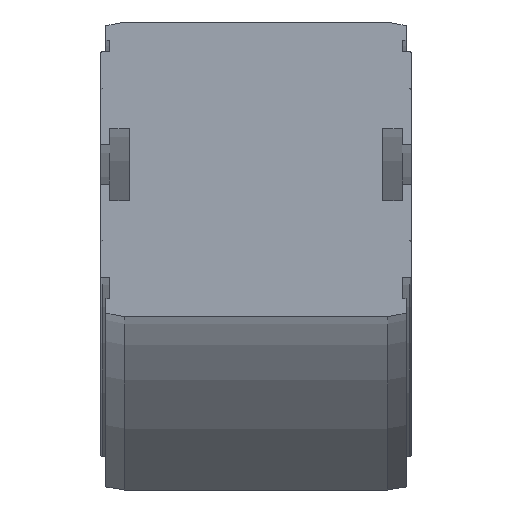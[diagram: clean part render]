
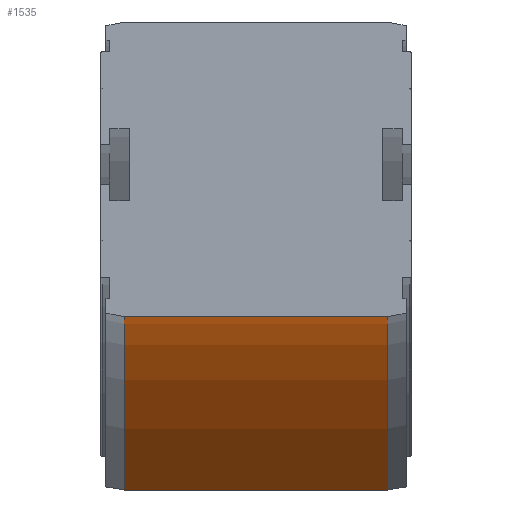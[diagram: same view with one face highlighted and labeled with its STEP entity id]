
A CAD part, left-side view. The second image highlights one B-rep face of the part: STEP entity #1535.
In plain terms, the highlighted cylindrical face has radius 358 mm (diameter 716 mm), a partial arc.
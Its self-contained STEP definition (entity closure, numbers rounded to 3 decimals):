
#1494=CARTESIAN_POINT('',(0.,-18.25,-439.5));
#1495=DIRECTION('',(0.0,1.0,0.0));
#1496=DIRECTION('',(0.0,0.0,1.0));
#1497=AXIS2_PLACEMENT_3D('',#1494,#1495,#1496);
#1498=CYLINDRICAL_SURFACE('',#1497,358.);
#1499=CARTESIAN_POINT('',(179.,36.5,-129.463));
#1500=VERTEX_POINT('',#1499);
#1501=CARTESIAN_POINT('',(179.,-36.5,-129.463));
#1502=VERTEX_POINT('',#1501);
#1503=CARTESIAN_POINT('',(179.,36.5,-129.463));
#1504=DIRECTION('',(0.0,-1.0,0.0));
#1505=VECTOR('',#1504,73.0);
#1506=LINE('',#1503,#1505);
#1507=EDGE_CURVE('',#1500,#1502,#1506,.T.);
#1508=ORIENTED_EDGE('',*,*,#1507,.T.);
#1509=CARTESIAN_POINT('',(0.0,-36.5,-81.5));
#1510=VERTEX_POINT('',#1509);
#1511=CARTESIAN_POINT('',(0.,-36.5,-439.5));
#1512=DIRECTION('',(0.0,1.0,0.0));
#1513=DIRECTION('',(0.0,0.0,1.0));
#1514=AXIS2_PLACEMENT_3D('',#1511,#1512,#1513);
#1515=CIRCLE('',#1514,358.);
#1516=EDGE_CURVE('',#1510,#1502,#1515,.T.);
#1517=ORIENTED_EDGE('',*,*,#1516,.F.);
#1518=CARTESIAN_POINT('',(0.0,36.5,-81.5));
#1519=VERTEX_POINT('',#1518);
#1520=CARTESIAN_POINT('',(0.0,-36.5,-81.5));
#1521=DIRECTION('',(0.0,1.0,0.0));
#1522=VECTOR('',#1521,73.0);
#1523=LINE('',#1520,#1522);
#1524=EDGE_CURVE('',#1510,#1519,#1523,.T.);
#1525=ORIENTED_EDGE('',*,*,#1524,.T.);
#1526=CARTESIAN_POINT('',(0.,36.5,-439.5));
#1527=DIRECTION('',(0.0,1.0,0.0));
#1528=DIRECTION('',(0.0,0.0,1.0));
#1529=AXIS2_PLACEMENT_3D('',#1526,#1527,#1528);
#1530=CIRCLE('',#1529,358.);
#1531=EDGE_CURVE('',#1519,#1500,#1530,.T.);
#1532=ORIENTED_EDGE('',*,*,#1531,.T.);
#1533=EDGE_LOOP('',(#1508,#1517,#1525,#1532));
#1534=FACE_OUTER_BOUND('',#1533,.T.);
#1535=ADVANCED_FACE('',(#1534),#1498,.F.);
